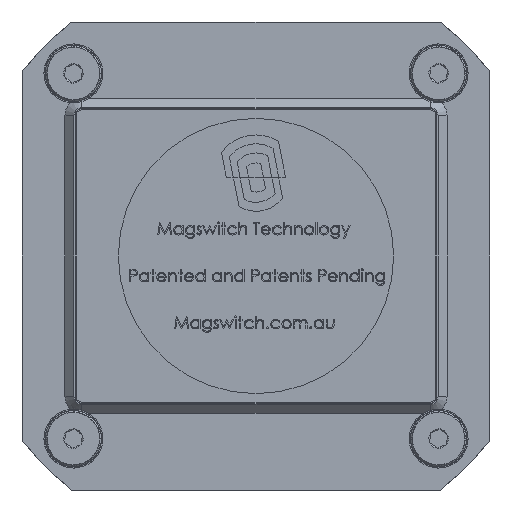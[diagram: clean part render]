
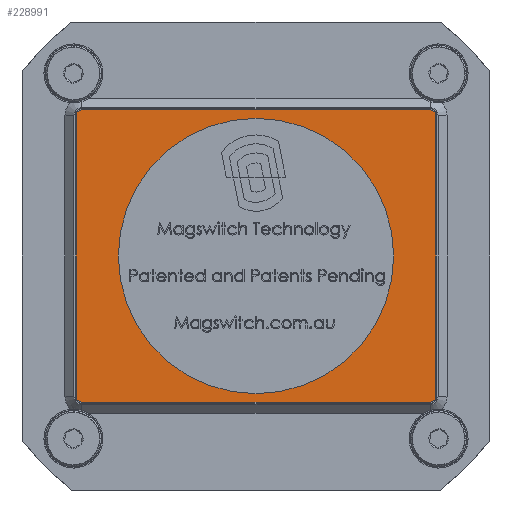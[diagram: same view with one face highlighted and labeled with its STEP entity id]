
A CAD part, front view. The second image highlights one B-rep face of the part: STEP entity #228991.
In plain terms, the highlighted planar face has unit normal (0, -1, 0).
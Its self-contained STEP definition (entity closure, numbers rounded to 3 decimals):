
#80 = ORIENTED_EDGE ( 'NONE', *, *, #15981, .F. ) ;
#117 = EDGE_CURVE ( 'NONE', #111817, #208007, #235655, .T. ) ;
#2330 = DIRECTION ( 'NONE',  ( 0., 0., -1. ) ) ;
#7528 = CARTESIAN_POINT ( 'NONE',  ( -32., 0., -26. ) ) ;
#9115 = DIRECTION ( 'NONE',  ( 0., 0., 1. ) ) ;
#9584 = DIRECTION ( 'NONE',  ( 0., 0., 1. ) ) ;
#10311 = DIRECTION ( 'NONE',  ( -1., 0., 0. ) ) ;
#11892 = AXIS2_PLACEMENT_3D ( 'NONE', #20604, #205553, #184700 ) ;
#15727 = ORIENTED_EDGE ( 'NONE', *, *, #201361, .F. ) ;
#15981 = EDGE_CURVE ( 'NONE', #114183, #119731, #99110, .T. ) ;
#17764 = CARTESIAN_POINT ( 'NONE',  ( 31., 0., -26. ) ) ;
#20604 = CARTESIAN_POINT ( 'NONE',  ( -31., 0., -25. ) ) ;
#24768 = VERTEX_POINT ( 'NONE', #128695 ) ;
#25221 = DIRECTION ( 'NONE',  ( 0., 0., 1. ) ) ;
#26627 = ORIENTED_EDGE ( 'NONE', *, *, #201116, .T. ) ;
#29634 = LINE ( 'NONE', #228075, #219555 ) ;
#31087 = CARTESIAN_POINT ( 'NONE',  ( -32., 0., -26. ) ) ;
#33204 = LINE ( 'NONE', #31087, #73407 ) ;
#40076 = CARTESIAN_POINT ( 'NONE',  ( 32., 0., -26. ) ) ;
#43964 = VERTEX_POINT ( 'NONE', #236361 ) ;
#46146 = ORIENTED_EDGE ( 'NONE', *, *, #98117, .F. ) ;
#47624 = EDGE_CURVE ( 'NONE', #149446, #232495, #142325, .T. ) ;
#49440 = CIRCLE ( 'NONE', #93292, 1. ) ;
#61145 = VERTEX_POINT ( 'NONE', #220649 ) ;
#65458 = CARTESIAN_POINT ( 'NONE',  ( 0., 0., 0. ) ) ;
#71794 = FACE_OUTER_BOUND ( 'NONE', #87083, .T. ) ;
#73407 = VECTOR ( 'NONE', #10311, 1000. ) ;
#74728 = PLANE ( 'NONE',  #182020 ) ;
#84800 = DIRECTION ( 'NONE',  ( 0., 0., -1. ) ) ;
#86362 = CARTESIAN_POINT ( 'NONE',  ( -31., 0., 25. ) ) ;
#87083 = EDGE_LOOP ( 'NONE', ( #46146, #26627, #197295, #92948, #137380, #172535, #132561, #178833 ) ) ;
#92948 = ORIENTED_EDGE ( 'NONE', *, *, #186178, .T. ) ;
#93292 = AXIS2_PLACEMENT_3D ( 'NONE', #155187, #173690, #9584 ) ;
#96757 = VERTEX_POINT ( 'NONE', #17764 ) ;
#98117 = EDGE_CURVE ( 'NONE', #24768, #208007, #151841, .T. ) ;
#99110 = CIRCLE ( 'NONE', #139259, 24.5 ) ;
#99742 = CARTESIAN_POINT ( 'NONE',  ( 32., 0., -25. ) ) ;
#103199 = DIRECTION ( 'NONE',  ( 0., -1., 0. ) ) ;
#103332 = DIRECTION ( 'NONE',  ( 0., -1., 0. ) ) ;
#110869 = CIRCLE ( 'NONE', #186417, 24.5 ) ;
#111817 = VERTEX_POINT ( 'NONE', #226269 ) ;
#112595 = DIRECTION ( 'NONE',  ( 0., 1., 0. ) ) ;
#114183 = VERTEX_POINT ( 'NONE', #194026 ) ;
#119731 = VERTEX_POINT ( 'NONE', #195184 ) ;
#124217 = EDGE_CURVE ( 'NONE', #149446, #43964, #136650, .T. ) ;
#128695 = CARTESIAN_POINT ( 'NONE',  ( -32., 0., -25. ) ) ;
#132561 = ORIENTED_EDGE ( 'NONE', *, *, #151444, .F. ) ;
#135323 = DIRECTION ( 'NONE',  ( 0., 0., -1. ) ) ;
#135723 = AXIS2_PLACEMENT_3D ( 'NONE', #139312, #103199, #9115 ) ;
#136556 = VECTOR ( 'NONE', #2330, 1000. ) ;
#136650 = CIRCLE ( 'NONE', #135723, 1. ) ;
#137380 = ORIENTED_EDGE ( 'NONE', *, *, #47624, .F. ) ;
#137468 = VECTOR ( 'NONE', #25221, 1000. ) ;
#139259 = AXIS2_PLACEMENT_3D ( 'NONE', #152297, #208519, #135323 ) ;
#139312 = CARTESIAN_POINT ( 'NONE',  ( 31., 0., 25. ) ) ;
#142325 = LINE ( 'NONE', #40076, #136556 ) ;
#144200 = EDGE_LOOP ( 'NONE', ( #80, #15727 ) ) ;
#149446 = VERTEX_POINT ( 'NONE', #177341 ) ;
#151444 = EDGE_CURVE ( 'NONE', #111817, #43964, #29634, .T. ) ;
#151841 = LINE ( 'NONE', #7528, #137468 ) ;
#152297 = CARTESIAN_POINT ( 'NONE',  ( 0., 0., 0. ) ) ;
#155187 = CARTESIAN_POINT ( 'NONE',  ( 31., 0., -25. ) ) ;
#162190 = EDGE_CURVE ( 'NONE', #96757, #61145, #33204, .T. ) ;
#172535 = ORIENTED_EDGE ( 'NONE', *, *, #124217, .T. ) ;
#173690 = DIRECTION ( 'NONE',  ( 0., -1., 0. ) ) ;
#174917 = DIRECTION ( 'NONE',  ( 0., -1., 0. ) ) ;
#177341 = CARTESIAN_POINT ( 'NONE',  ( 32., 0., 25. ) ) ;
#178833 = ORIENTED_EDGE ( 'NONE', *, *, #117, .T. ) ;
#182020 = AXIS2_PLACEMENT_3D ( 'NONE', #203451, #112595, #207370 ) ;
#184700 = DIRECTION ( 'NONE',  ( 0., 0., 1. ) ) ;
#186178 = EDGE_CURVE ( 'NONE', #96757, #232495, #49440, .T. ) ;
#186417 = AXIS2_PLACEMENT_3D ( 'NONE', #65458, #174917, #84800 ) ;
#191131 = DIRECTION ( 'NONE',  ( 1., 0., 0. ) ) ;
#194026 = CARTESIAN_POINT ( 'NONE',  ( 0., 0., -24.5 ) ) ;
#195184 = CARTESIAN_POINT ( 'NONE',  ( 0., 0., 24.5 ) ) ;
#197295 = ORIENTED_EDGE ( 'NONE', *, *, #162190, .F. ) ;
#201116 = EDGE_CURVE ( 'NONE', #24768, #61145, #231907, .T. ) ;
#201361 = EDGE_CURVE ( 'NONE', #119731, #114183, #110869, .T. ) ;
#203451 = CARTESIAN_POINT ( 'NONE',  ( 0., 0., 0. ) ) ;
#205553 = DIRECTION ( 'NONE',  ( 0., -1., 0. ) ) ;
#207037 = FACE_BOUND ( 'NONE', #144200, .T. ) ;
#207370 = DIRECTION ( 'NONE',  ( 0., 0., 1. ) ) ;
#208007 = VERTEX_POINT ( 'NONE', #234677 ) ;
#208519 = DIRECTION ( 'NONE',  ( 0., -1., 0. ) ) ;
#215054 = DIRECTION ( 'NONE',  ( 0., 0., 1. ) ) ;
#219285 = AXIS2_PLACEMENT_3D ( 'NONE', #86362, #103332, #215054 ) ;
#219555 = VECTOR ( 'NONE', #191131, 1000. ) ;
#220649 = CARTESIAN_POINT ( 'NONE',  ( -31., 0., -26. ) ) ;
#226269 = CARTESIAN_POINT ( 'NONE',  ( -31., 0., 26. ) ) ;
#228075 = CARTESIAN_POINT ( 'NONE',  ( -32., 0., 26. ) ) ;
#228991 = ADVANCED_FACE ( 'NONE', ( #207037, #71794 ), #74728, .F. ) ;
#231907 = CIRCLE ( 'NONE', #11892, 1. ) ;
#232495 = VERTEX_POINT ( 'NONE', #99742 ) ;
#234677 = CARTESIAN_POINT ( 'NONE',  ( -32., 0., 25. ) ) ;
#235655 = CIRCLE ( 'NONE', #219285, 1. ) ;
#236361 = CARTESIAN_POINT ( 'NONE',  ( 31., 0., 26. ) ) ;
